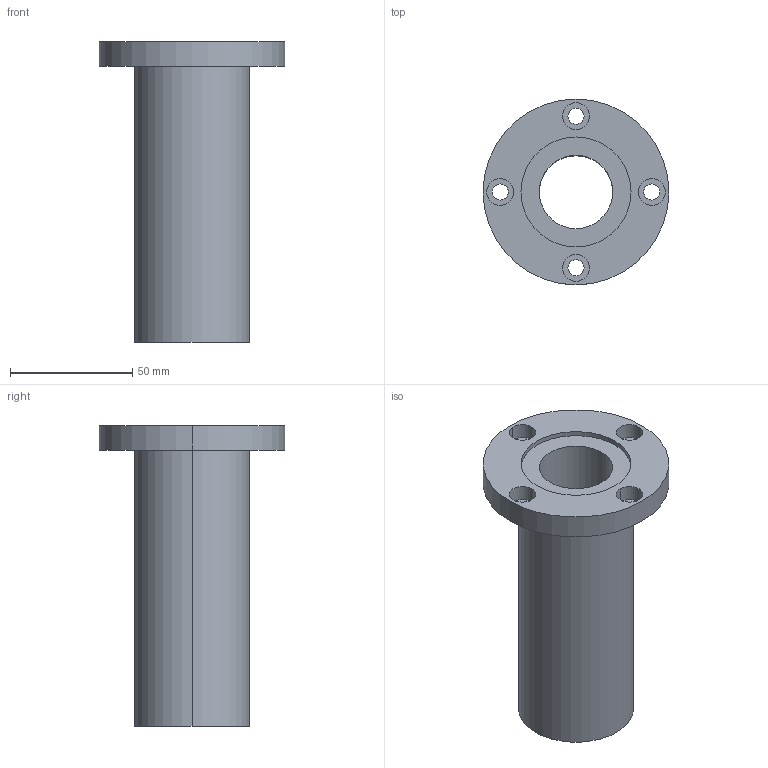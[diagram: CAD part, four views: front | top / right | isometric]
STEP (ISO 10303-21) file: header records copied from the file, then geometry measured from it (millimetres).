
FILE_DESCRIPTION((''),'2;1');
FILE_NAME('C:\Documents and Settings\ｿﾀﾀ蠑ｷ1\ｹﾙﾅﾁ ﾈｭｸ饅\ｺﾎﾇｰﾆﾄﾀﾏ\ﾁｦﾇｰ\LMEF__LUU\LMEF30LUU.stp','2005-06-15T10:54:28',('ｿﾀﾀ蠑ｷ1'),(''),'Autodesk Inventor 9','Autodesk Inventor 9','');
FILE_SCHEMA(('AUTOMOTIVE_DESIGN { 1 0 10303 214 1 1 1 1 }'));
Length unit declared in the file: millimetre
Products named in the file (1): LMEF__(L)
Bounding box: 76 x 76 x 123 mm (x, y, z)
Volume: 147985.9 mm3; surface area: 39427.7 mm2
Topology: 1 solids, 1 shells, 35 faces, 78 edges, 52 vertices
Faces by surface type: bspline 20, cylinder 10, plane 5
Entity records: 1255 total; most frequent: CARTESIAN_POINT 450, DIRECTION 162, ORIENTED_EDGE 156, EDGE_CURVE 78, AXIS2_PLACEMENT_3D 68, VERTEX_POINT 52, CIRCLE 52, EDGE_LOOP 52
